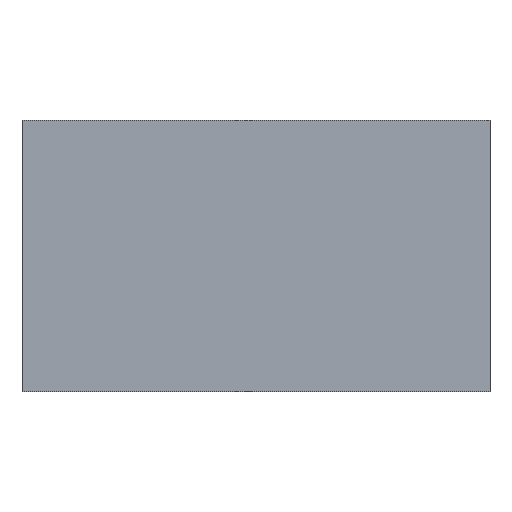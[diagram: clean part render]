
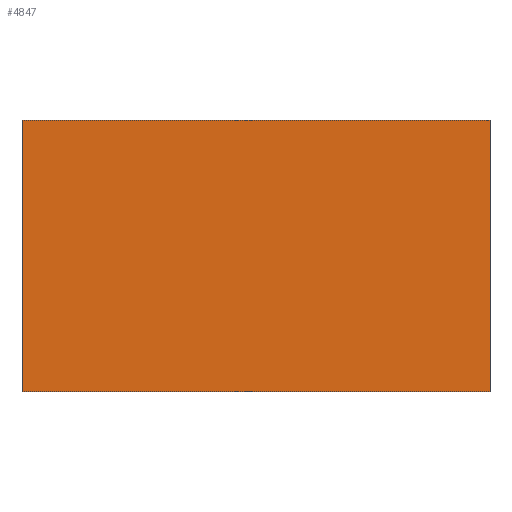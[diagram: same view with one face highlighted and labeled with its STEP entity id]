
A CAD part, front view. The second image highlights one B-rep face of the part: STEP entity #4847.
In plain terms, the highlighted planar face has unit normal (0, -1, 0).
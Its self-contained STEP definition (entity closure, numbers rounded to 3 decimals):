
#384 = PLANE ( 'NONE',  #6893 ) ;
#752 = DIRECTION ( 'NONE',  ( 1., 0., 0. ) ) ;
#1065 = EDGE_CURVE ( 'NONE', #10631, #11113, #8815, .T. ) ;
#1289 = CARTESIAN_POINT ( 'NONE',  ( 0., -152., 0. ) ) ;
#1655 = ORIENTED_EDGE ( 'NONE', *, *, #1705, .F. ) ;
#1660 = ORIENTED_EDGE ( 'NONE', *, *, #3270, .T. ) ;
#1705 = EDGE_CURVE ( 'NONE', #11142, #11113, #3110, .T. ) ;
#1835 = VERTEX_POINT ( 'NONE', #6493 ) ;
#2221 = DIRECTION ( 'NONE',  ( 0., 0., -1. ) ) ;
#2975 = CARTESIAN_POINT ( 'NONE',  ( -254., -152., 144.847 ) ) ;
#3110 = LINE ( 'NONE', #6752, #7390 ) ;
#3270 = EDGE_CURVE ( 'NONE', #1835, #10631, #5480, .T. ) ;
#3727 = DIRECTION ( 'NONE',  ( 1., 0., 0. ) ) ;
#4028 = DIRECTION ( 'NONE',  ( 0., 0., -1. ) ) ;
#4847 = ADVANCED_FACE ( 'NONE', ( #5825 ), #384, .T. ) ;
#4932 = DIRECTION ( 'NONE',  ( 0., -1., 0. ) ) ;
#5480 = LINE ( 'NONE', #2975, #11409 ) ;
#5520 = LINE ( 'NONE', #5580, #5635 ) ;
#5580 = CARTESIAN_POINT ( 'NONE',  ( 254., -152., 147.5 ) ) ;
#5635 = VECTOR ( 'NONE', #3727, 1000. ) ;
#5825 = FACE_OUTER_BOUND ( 'NONE', #10824, .T. ) ;
#5908 = ORIENTED_EDGE ( 'NONE', *, *, #11674, .F. ) ;
#6493 = CARTESIAN_POINT ( 'NONE',  ( -254., -152., 147.5 ) ) ;
#6614 = DIRECTION ( 'NONE',  ( 0., 0., -1. ) ) ;
#6752 = CARTESIAN_POINT ( 'NONE',  ( 254., -152., -144.847 ) ) ;
#6893 = AXIS2_PLACEMENT_3D ( 'NONE', #1289, #4932, #4028 ) ;
#7177 = CARTESIAN_POINT ( 'NONE',  ( 254., -152., -147.5 ) ) ;
#7390 = VECTOR ( 'NONE', #2221, 1000. ) ;
#8472 = CARTESIAN_POINT ( 'NONE',  ( -254., -152., -147.5 ) ) ;
#8815 = LINE ( 'NONE', #10485, #11201 ) ;
#8826 = ORIENTED_EDGE ( 'NONE', *, *, #1065, .T. ) ;
#10485 = CARTESIAN_POINT ( 'NONE',  ( 254., -152., -147.5 ) ) ;
#10631 = VERTEX_POINT ( 'NONE', #8472 ) ;
#10824 = EDGE_LOOP ( 'NONE', ( #8826, #1655, #5908, #1660 ) ) ;
#11048 = CARTESIAN_POINT ( 'NONE',  ( 254., -152., 147.5 ) ) ;
#11113 = VERTEX_POINT ( 'NONE', #7177 ) ;
#11142 = VERTEX_POINT ( 'NONE', #11048 ) ;
#11201 = VECTOR ( 'NONE', #752, 1000. ) ;
#11409 = VECTOR ( 'NONE', #6614, 1000. ) ;
#11674 = EDGE_CURVE ( 'NONE', #1835, #11142, #5520, .T. ) ;
